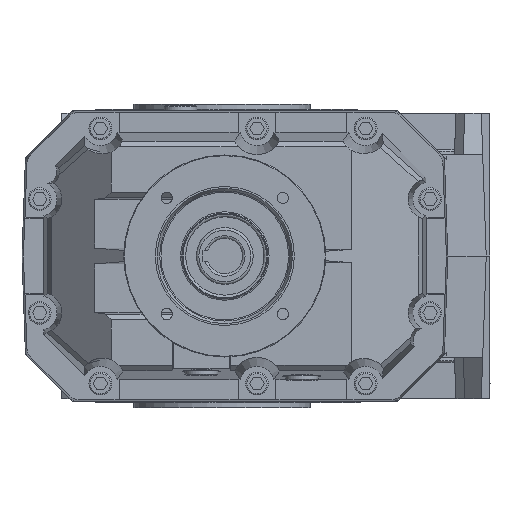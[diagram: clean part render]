
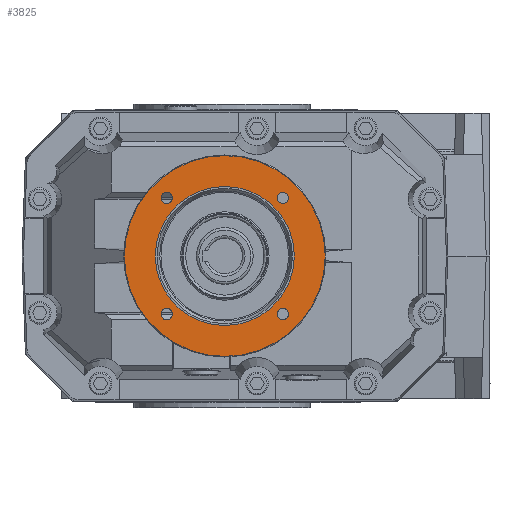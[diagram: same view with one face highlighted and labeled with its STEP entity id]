
A CAD part, left-side view. The second image highlights one B-rep face of the part: STEP entity #3825.
In plain terms, the highlighted planar face has unit normal (-1, 0, 0).
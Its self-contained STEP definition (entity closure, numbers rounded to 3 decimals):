
#3825 = ADVANCED_FACE( '', ( #8142, #8143, #8144, #8145, #8146, #8147 ), #8148, .F. );
#8142 = FACE_OUTER_BOUND( '', #16320, .T. );
#8143 = FACE_BOUND( '', #16321, .T. );
#8144 = FACE_BOUND( '', #16322, .T. );
#8145 = FACE_BOUND( '', #16323, .T. );
#8146 = FACE_BOUND( '', #16324, .T. );
#8147 = FACE_BOUND( '', #16325, .T. );
#8148 = PLANE( '', #16326 );
#16320 = EDGE_LOOP( '', ( #27304 ) );
#16321 = EDGE_LOOP( '', ( #27305 ) );
#16322 = EDGE_LOOP( '', ( #27306 ) );
#16323 = EDGE_LOOP( '', ( #27307 ) );
#16324 = EDGE_LOOP( '', ( #27308 ) );
#16325 = EDGE_LOOP( '', ( #27309 ) );
#16326 = AXIS2_PLACEMENT_3D( '', #27310, #27311, #27312 );
#27304 = ORIENTED_EDGE( '', *, *, #28858, .F. );
#27305 = ORIENTED_EDGE( '', *, *, #28197, .F. );
#27306 = ORIENTED_EDGE( '', *, *, #31427, .F. );
#27307 = ORIENTED_EDGE( '', *, *, #30346, .F. );
#27308 = ORIENTED_EDGE( '', *, *, #29322, .F. );
#27309 = ORIENTED_EDGE( '', *, *, #28980, .T. );
#27310 = CARTESIAN_POINT( '', ( -478.9, -2.1, -79.5 ) );
#27311 = DIRECTION( '', ( 1., 0., 0. ) );
#27312 = DIRECTION( '', ( 0., 0., -1. ) );
#28197 = EDGE_CURVE( '', #32685, #32685, #32686, .F. );
#28858 = EDGE_CURVE( '', #33814, #33814, #33815, .T. );
#28980 = EDGE_CURVE( '', #34018, #34018, #34019, .T. );
#29322 = EDGE_CURVE( '', #34589, #34589, #34590, .F. );
#30346 = EDGE_CURVE( '', #36149, #36149, #36150, .F. );
#31427 = EDGE_CURVE( '', #37608, #37608, #37609, .F. );
#32685 = VERTEX_POINT( '', #39322 );
#32686 = CIRCLE( '', #39323, 4.5 );
#33814 = VERTEX_POINT( '', #41754 );
#33815 = CIRCLE( '', #41755, 79.5 );
#34018 = VERTEX_POINT( '', #42072 );
#34019 = CIRCLE( '', #42073, 55. );
#34589 = VERTEX_POINT( '', #43287 );
#34590 = CIRCLE( '', #43288, 4.5 );
#36149 = VERTEX_POINT( '', #48004 );
#36150 = CIRCLE( '', #48005, 4.5 );
#37608 = VERTEX_POINT( '', #51389 );
#37609 = CIRCLE( '', #51390, 4.5 );
#39322 = CARTESIAN_POINT( '', ( -478.9, -48.062, 41.462 ) );
#39323 = AXIS2_PLACEMENT_3D( '', #53428, #53429, #53430 );
#41754 = CARTESIAN_POINT( '', ( -478.9, -2.1, -79.5 ) );
#41755 = AXIS2_PLACEMENT_3D( '', #54206, #54207, #54208 );
#42072 = CARTESIAN_POINT( '', ( -478.9, -2.1, -55. ) );
#42073 = AXIS2_PLACEMENT_3D( '', #54328, #54329, #54330 );
#43287 = CARTESIAN_POINT( '', ( -478.9, -48.062, -50.462 ) );
#43288 = AXIS2_PLACEMENT_3D( '', #54686, #54687, #54688 );
#48004 = CARTESIAN_POINT( '', ( -478.9, 43.862, -50.462 ) );
#48005 = AXIS2_PLACEMENT_3D( '', #55775, #55776, #55777 );
#51389 = CARTESIAN_POINT( '', ( -478.9, 43.862, 41.462 ) );
#51390 = AXIS2_PLACEMENT_3D( '', #56787, #56788, #56789 );
#53428 = CARTESIAN_POINT( '', ( -478.9, -48.062, 45.962 ) );
#53429 = DIRECTION( '', ( 1., 0., 0. ) );
#53430 = DIRECTION( '', ( 0., 0., -1. ) );
#54206 = CARTESIAN_POINT( '', ( -478.9, -2.1, 0. ) );
#54207 = DIRECTION( '', ( 1., 0., 0. ) );
#54208 = DIRECTION( '', ( 0., 0., -1. ) );
#54328 = CARTESIAN_POINT( '', ( -478.9, -2.1, 0. ) );
#54329 = DIRECTION( '', ( 1., 0., 0. ) );
#54330 = DIRECTION( '', ( 0., 0., -1. ) );
#54686 = CARTESIAN_POINT( '', ( -478.9, -48.062, -45.962 ) );
#54687 = DIRECTION( '', ( 1., 0., 0. ) );
#54688 = DIRECTION( '', ( 0., 0., -1. ) );
#55775 = CARTESIAN_POINT( '', ( -478.9, 43.862, -45.962 ) );
#55776 = DIRECTION( '', ( 1., 0., 0. ) );
#55777 = DIRECTION( '', ( 0., 0., -1. ) );
#56787 = CARTESIAN_POINT( '', ( -478.9, 43.862, 45.962 ) );
#56788 = DIRECTION( '', ( 1., 0., 0. ) );
#56789 = DIRECTION( '', ( 0., 0., -1. ) );
